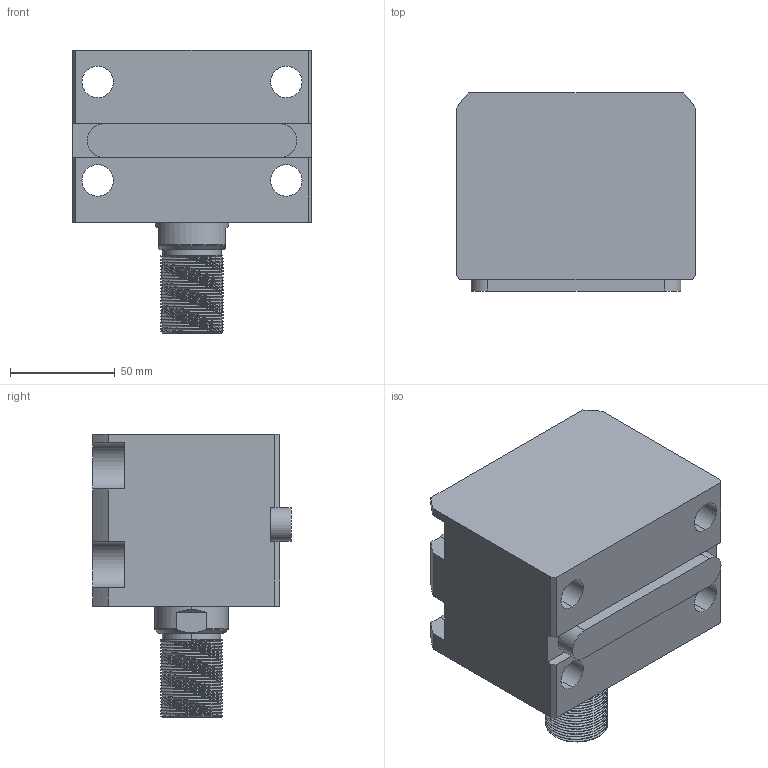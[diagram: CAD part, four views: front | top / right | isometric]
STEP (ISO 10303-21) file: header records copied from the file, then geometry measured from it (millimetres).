
FILE_DESCRIPTION (( 'STEP AP214' ), '1' );
FILE_NAME ('chtb-la63x15w_asm.STEP', '2018-05-17T02:56:50', ( 'Windows' ), ( 'Microsoft' ), 'SwSTEP 2.0', 'SolidWorks 2015', '' );
FILE_SCHEMA (( 'AUTOMOTIVE_DESIGN' ));
Length unit declared in the file: millimetre
Products named in the file (5): CHTB-LA63X15NBT; CHTB-LA63PJ; CHTB63X15WHSG; CHTB-63QG; chtb-la63x15w_asm
Assembly tree (4 placements, depth 2):
  chtb-la63x15w_asm
    CHTB-63QG
    CHTB63X15WHSG
    CHTB-LA63PJ
    CHTB-LA63X15NBT
Bounding box: 114 x 94.5 x 135 mm (x, y, z)
Volume: 760140.7 mm3; surface area: 132524.2 mm2
Topology: 4 solids, 4 shells, 228 faces, 670 edges, 457 vertices
Faces by surface type: cylinder 147, plane 48, bspline 14, cone 13, torus 6
Entity records: 22769 total; most frequent: CARTESIAN_POINT 17126, ORIENTED_EDGE 1332, DIRECTION 940, EDGE_CURVE 666, VERTEX_POINT 457, AXIS2_PLACEMENT_3D 350, EDGE_LOOP 253, LINE 240
